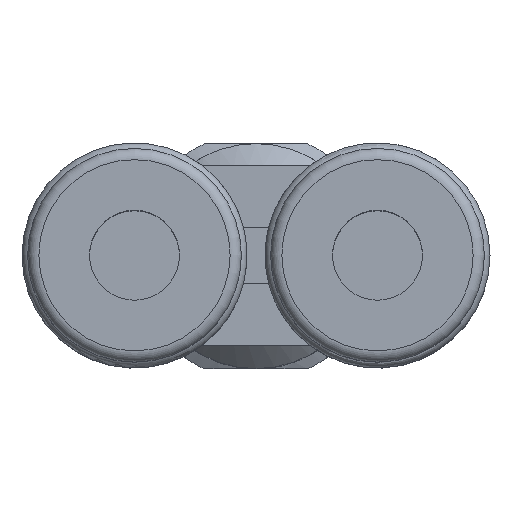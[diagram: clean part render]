
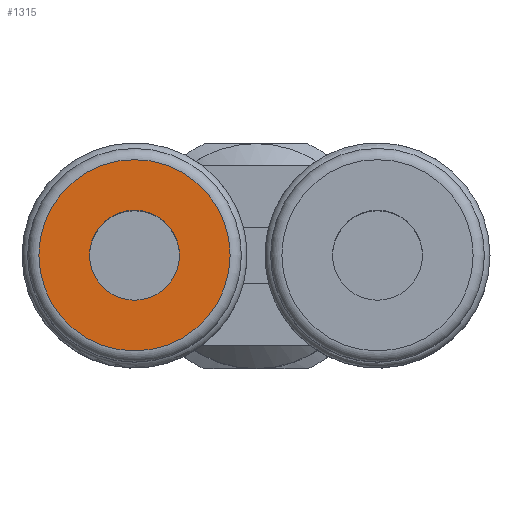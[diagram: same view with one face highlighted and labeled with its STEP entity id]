
A CAD part, top view. The second image highlights one B-rep face of the part: STEP entity #1315.
In plain terms, the highlighted planar face has unit normal (0, 0, 1).
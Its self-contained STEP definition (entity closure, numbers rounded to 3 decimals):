
#186=PLANE($,#1451);
#253=FACE_BOUND($,#418,.T.);
#254=FACE_BOUND($,#419,.T.);
#418=EDGE_LOOP($,(#1035));
#419=EDGE_LOOP($,(#1036));
#532=CIRCLE($,#1443,2.);
#534=CIRCLE($,#1447,4.25);
#631=VERTEX_POINT($,#2189);
#633=VERTEX_POINT($,#2195);
#778=EDGE_CURVE($,#631,#631,#532,.T.);
#780=EDGE_CURVE($,#633,#633,#534,.T.);
#1035=ORIENTED_EDGE($,*,*,#778,.F.);
#1036=ORIENTED_EDGE($,*,*,#780,.T.);
#1315=ADVANCED_FACE($,(#253,#254),#186,.T.);
#1443=AXIS2_PLACEMENT_3D($,#2190,#1710,#1711);
#1447=AXIS2_PLACEMENT_3D($,#2196,#1718,#1719);
#1451=AXIS2_PLACEMENT_3D($,#2202,#1726,#1727);
#1710=DIRECTION('center_axis',(0.,0.,1.));
#1711=DIRECTION('ref_axis',(-1.,0.,0.));
#1718=DIRECTION('center_axis',(0.,0.,1.));
#1719=DIRECTION('ref_axis',(1.,0.,0.));
#1726=DIRECTION('center_axis',(0.,0.,1.));
#1727=DIRECTION('ref_axis',(1.,0.,0.));
#2189=CARTESIAN_POINT('',(-7.4,0.,28.3));
#2190=CARTESIAN_POINT('Origin',(-5.4,0.,28.3));
#2195=CARTESIAN_POINT('',(-9.65,0.,28.3));
#2196=CARTESIAN_POINT('Origin',(-5.4,0.,28.3));
#2202=CARTESIAN_POINT('Origin',(-5.4,0.,28.3));
